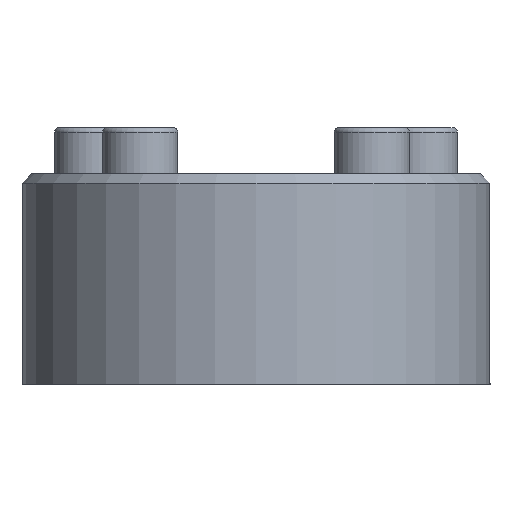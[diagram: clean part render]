
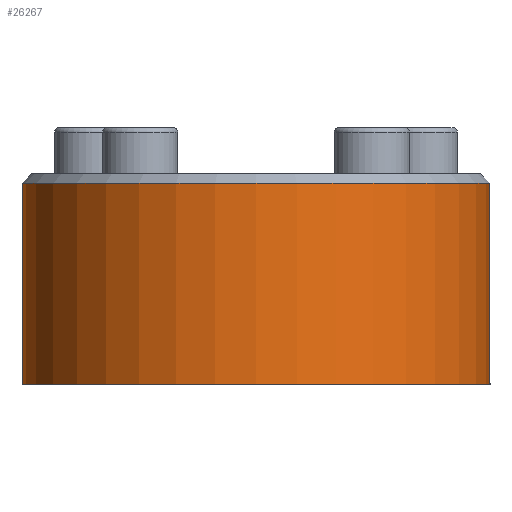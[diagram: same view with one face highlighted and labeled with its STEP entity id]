
A CAD part, front view. The second image highlights one B-rep face of the part: STEP entity #26267.
In plain terms, the highlighted cylindrical face has radius 50 mm (diameter 100 mm), a partial arc.
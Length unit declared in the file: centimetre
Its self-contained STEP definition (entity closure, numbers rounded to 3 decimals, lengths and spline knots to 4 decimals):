
#1590=CYLINDRICAL_SURFACE('',#27714,5.);
#3121=FACE_OUTER_BOUND('',#4647,.T.);
#4647=EDGE_LOOP('',(#19337,#19338,#19339,#19340));
#5935=LINE('',#33343,#8681);
#6787=LINE('',#37278,#9533);
#8681=VECTOR('',#28565,4.3);
#9533=VECTOR('',#29771,4.3);
#11473=CIRCLE('',#27711,5.);
#11474=CIRCLE('',#27715,5.);
#11487=VERTEX_POINT('',#33341);
#11488=VERTEX_POINT('',#33342);
#12737=VERTEX_POINT('',#37269);
#12738=VERTEX_POINT('',#37277);
#13995=EDGE_CURVE('',#11487,#11488,#5935,.T.);
#15323=EDGE_CURVE('',#11488,#12737,#11473,.T.);
#15326=EDGE_CURVE('',#12738,#12737,#6787,.T.);
#15327=EDGE_CURVE('',#12738,#11487,#11474,.T.);
#19337=ORIENTED_EDGE('',*,*,#15326,.T.);
#19338=ORIENTED_EDGE('',*,*,#15323,.F.);
#19339=ORIENTED_EDGE('',*,*,#13995,.F.);
#19340=ORIENTED_EDGE('',*,*,#15327,.F.);
#26267=ADVANCED_FACE('',(#3121),#1590,.T.);
#27711=AXIS2_PLACEMENT_3D('',#37271,#29761,#29762);
#27714=AXIS2_PLACEMENT_3D('',#37276,#29769,#29770);
#27715=AXIS2_PLACEMENT_3D('',#37279,#29772,#29773);
#28565=DIRECTION('',(0.,0.,1.));
#29761=DIRECTION('center_axis',(0.,0.,
1.));
#29762=DIRECTION('ref_axis',(-1.,0.,0.));
#29769=DIRECTION('center_axis',(0.,0.,
-1.));
#29770=DIRECTION('ref_axis',(-1.,0.,0.));
#29771=DIRECTION('',(0.,0.,1.));
#29772=DIRECTION('center_axis',(0.,0.,
-1.));
#29773=DIRECTION('ref_axis',(1.,0.,0.));
#33341=CARTESIAN_POINT('',(-5.,-13.5,-2.75));
#33342=CARTESIAN_POINT('',(-5.,-13.5,1.55));
#33343=CARTESIAN_POINT('',(-5.,-13.5,-2.75));
#37269=CARTESIAN_POINT('',(5.,-13.5,1.55));
#37271=CARTESIAN_POINT('Origin',(0.,-13.5,
1.55));
#37276=CARTESIAN_POINT('Origin',(0.,-13.5,
1.75));
#37277=CARTESIAN_POINT('',(5.,-13.5,-2.75));
#37278=CARTESIAN_POINT('',(5.,-13.5,-2.75));
#37279=CARTESIAN_POINT('Origin',(0.,-13.5,
-2.75));
